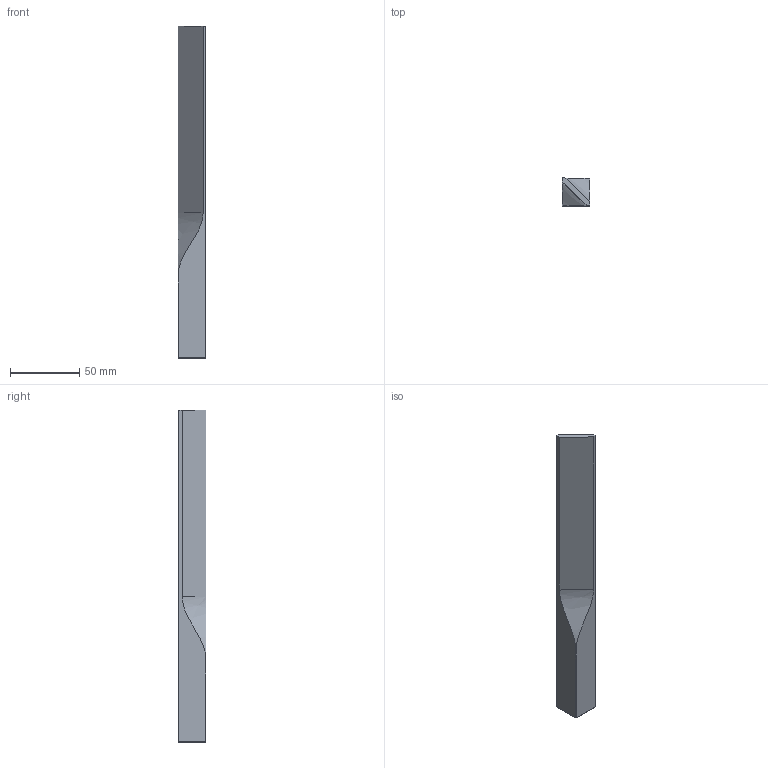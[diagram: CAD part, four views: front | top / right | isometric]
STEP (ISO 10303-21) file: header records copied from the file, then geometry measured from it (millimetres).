
FILE_DESCRIPTION((''),'2;1');
FILE_NAME('MX2-HR','2020-10-26T',('Administrator'),(''),'CREO PARAMETRIC BY PTC INC, 2015290','CREO PARAMETRIC BY PTC INC, 2015290','');
FILE_SCHEMA(('CONFIG_CONTROL_DESIGN'));
Length unit declared in the file: millimetre
Products named in the file (1): MX2-HR
Bounding box: 20 x 20 x 240 mm (x, y, z)
Volume: 48938.6 mm3; surface area: 16955.2 mm2
Topology: 1 solids, 1 shells, 77 faces, 196 edges, 127 vertices
Faces by surface type: cylinder 34, plane 23, bspline 11, cone 9
Entity records: 4229 total; most frequent: CARTESIAN_POINT 2470, ORIENTED_EDGE 392, DIRECTION 290, EDGE_CURVE 196, VERTEX_POINT 127, AXIS2_PLACEMENT_3D 98, VECTOR 94, LINE 94
